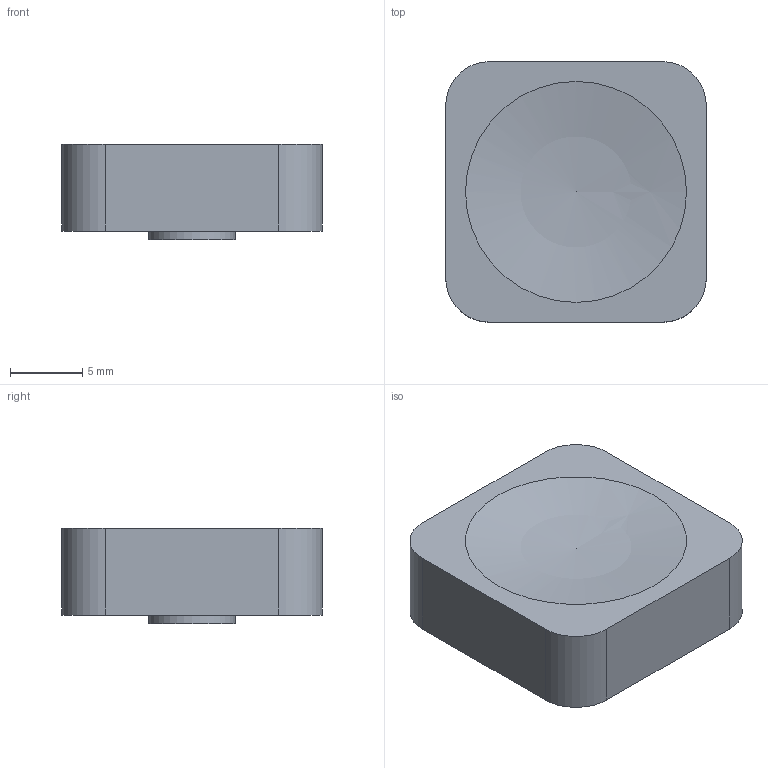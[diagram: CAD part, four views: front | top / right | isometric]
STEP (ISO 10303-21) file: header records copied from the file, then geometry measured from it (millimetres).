
FILE_DESCRIPTION(('Open CASCADE Model'),'2;1');
FILE_NAME('Open CASCADE Shape Model','2026-09-06T14:28:00',('Author'),( 'Open CASCADE'),'Open CASCADE STEP processor 7.9','Open CASCADE 7.9' ,'Unknown');
FILE_SCHEMA(('AUTOMOTIVE_DESIGN { 1 0 10303 214 1 1 1 1 }'));
Length unit declared in the file: millimetre
Products named in the file (1): Open CASCADE STEP translator 7.9 8
Bounding box: 18 x 18 x 6.6 mm (x, y, z)
Volume: 976.7 mm3; surface area: 1433.7 mm2
Topology: 1 solids, 1 shells, 35 faces, 90 edges, 60 vertices
Faces by surface type: plane 25, cylinder 9, sphere 1
Full cylindrical faces by diameter (mm): 6 x1
Entity records: 2207 total; most frequent: CARTESIAN_POINT 445, DIRECTION 312, LINE 188, VECTOR 188, ORIENTED_EDGE 178, PCURVE 178, DEFINITIONAL_REPRESENTATION 178, EDGE_CURVE 89
